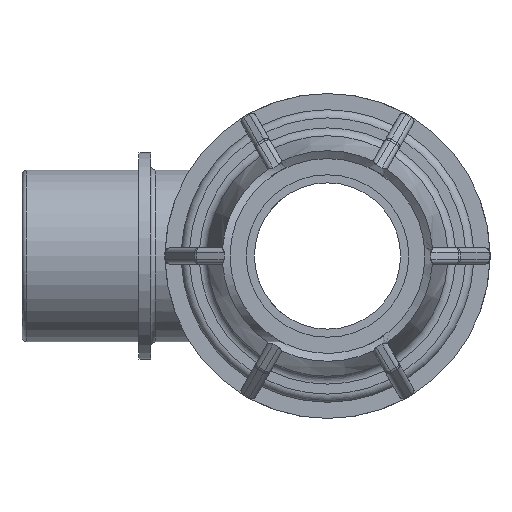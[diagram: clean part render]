
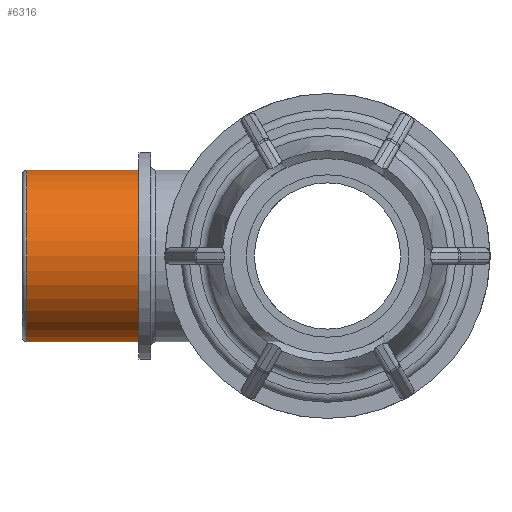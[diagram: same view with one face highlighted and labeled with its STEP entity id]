
A CAD part, left-side view. The second image highlights one B-rep face of the part: STEP entity #6316.
In plain terms, the highlighted cylindrical face has radius 13.22 mm (diameter 26.441 mm), a full revolution.
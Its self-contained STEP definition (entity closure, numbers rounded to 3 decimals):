
#1375=CIRCLE('',#7071,13.221);
#1377=CIRCLE('',#7074,13.221);
#1434=FACE_BOUND('',#2294,.T.);
#1846=FACE_OUTER_BOUND('',#2293,.T.);
#2293=EDGE_LOOP('',(#5771));
#2294=EDGE_LOOP('',(#5772));
#3029=VERTEX_POINT('',#12167);
#3031=VERTEX_POINT('',#12172);
#3946=EDGE_CURVE('',#3029,#3029,#1375,.T.);
#3948=EDGE_CURVE('',#3031,#3031,#1377,.T.);
#5771=ORIENTED_EDGE('',*,*,#3948,.T.);
#5772=ORIENTED_EDGE('',*,*,#3946,.F.);
#5908=CYLINDRICAL_SURFACE('',#7073,13.221);
#6316=ADVANCED_FACE('',(#1846,#1434),#5908,.T.);
#7071=AXIS2_PLACEMENT_3D('',#12168,#8938,#8939);
#7073=AXIS2_PLACEMENT_3D('',#12171,#8942,#8943);
#7074=AXIS2_PLACEMENT_3D('',#12173,#8944,#8945);
#8938=DIRECTION('center_axis',(0.,1.,0.));
#8939=DIRECTION('ref_axis',(1.,0.,0.));
#8942=DIRECTION('center_axis',(0.,1.,0.));
#8943=DIRECTION('ref_axis',(-1.,0.,0.));
#8944=DIRECTION('center_axis',(0.,1.,0.));
#8945=DIRECTION('ref_axis',(1.,0.,0.));
#12167=CARTESIAN_POINT('',(-13.221,46.25,0.));
#12168=CARTESIAN_POINT('Origin',(0.,46.25,0.));
#12171=CARTESIAN_POINT('Origin',(0.,38.,0.));
#12172=CARTESIAN_POINT('',(-13.221,29.,0.));
#12173=CARTESIAN_POINT('Origin',(0.,29.,0.));
